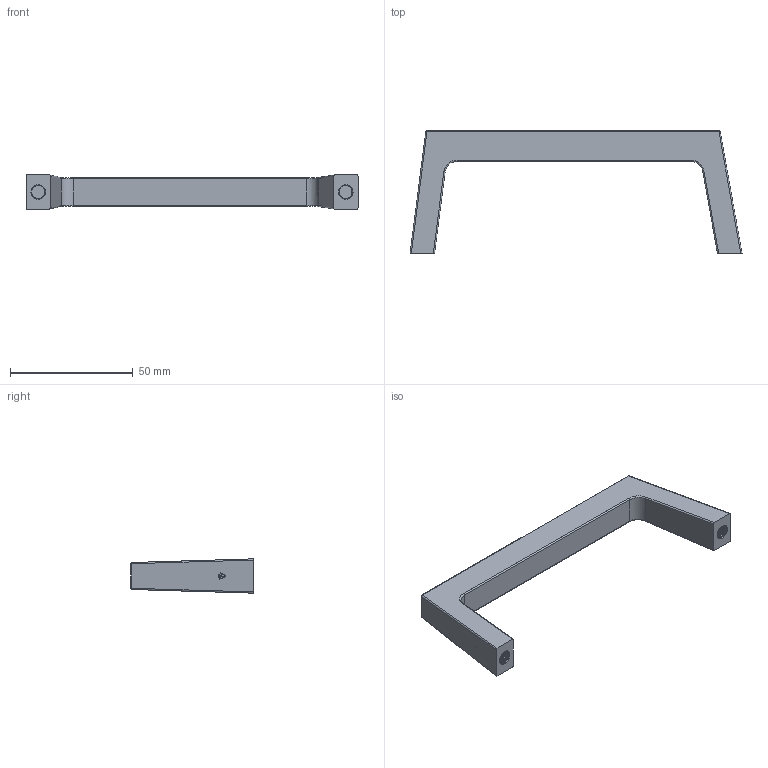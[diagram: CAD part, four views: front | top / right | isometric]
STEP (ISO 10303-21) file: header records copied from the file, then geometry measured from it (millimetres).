
FILE_DESCRIPTION (( 'STEP AP203' ), '1' );
FILE_NAME ('XG01-010-2.STEP', '2024-03-12T02:05:59', ( '' ), ( '' ), 'SwSTEP 2.0', 'SolidWorks 2020', '' );
FILE_SCHEMA (( 'CONFIG_CONTROL_DESIGN' ));
Length unit declared in the file: millimetre
Products named in the file (1): XG01-010-2
Bounding box: 135.5 x 50 x 14 mm (x, y, z)
Volume: 26312.9 mm3; surface area: 10216 mm2
Topology: 1 solids, 1 shells, 174 faces, 494 edges, 316 vertices
Faces by surface type: cylinder 127, bspline 23, plane 16, cone 4, sphere 4
Entity records: 20353 total; most frequent: CARTESIAN_POINT 16689, ORIENTED_EDGE 980, DIRECTION 537, EDGE_CURVE 490, VERTEX_POINT 316, AXIS2_PLACEMENT_3D 193, EDGE_LOOP 180, ADVANCED_FACE 174
